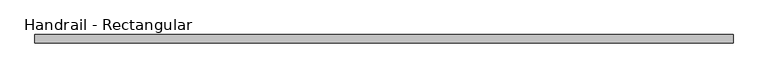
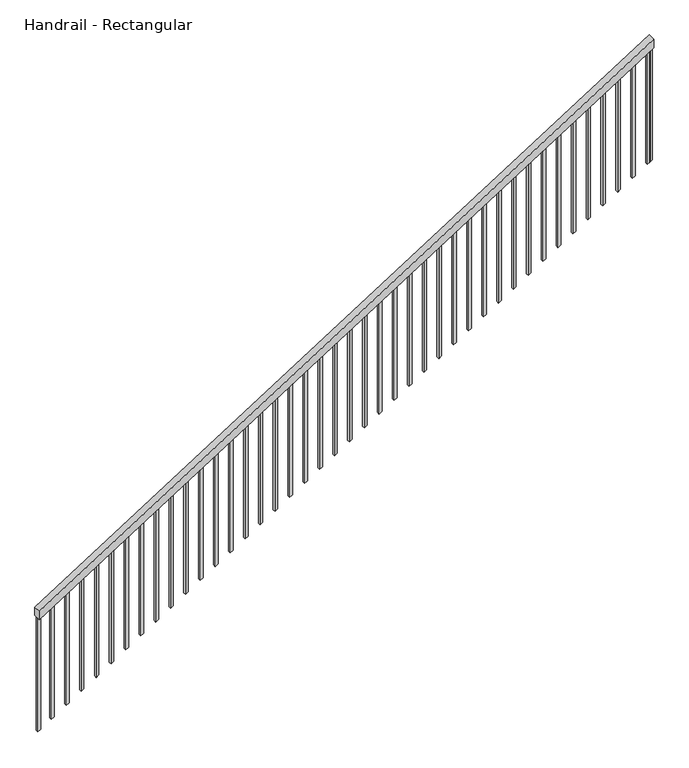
"""IFC4 building model written with IfcOpenShell, lengths in millimetres: railing geometry, Handrail - Rectangular."""

from ifc_helpers import new_model, si_unit, frame, origin, place, context, project, spatial, polyline, outline, extrude, source, transform, mapped, element, save


def handrail_rectangular_7836a871(model_context):
    return source(origin(), model_context, "Body", "SweptSolid", [
        extrude(outline(polyline([(914.4, 91186.1359071), (854.2661249, 91186.1359071), (3508.9758023, 95377.1359071), (3569.1096774, 95377.1359071), (914.4, 91186.1359071)])), frame((0.0, -25345.6485124, 0.0), z_axis=(0.0, 1.0, 0.0), x_axis=(0.0, 0.0, 1.0)), (0.0, 0.0, 1.0), 50.8),
        extrude(outline(polyline([(3486.8532217, 95342.2109071), (2670.3309214, 95342.2109071), (2682.3977835, 95361.2609071), (3498.9200838, 95361.2609071), (3486.8532217, 95342.2109071)])), frame((0.0, -25329.7735124, 0.0), z_axis=(0.0, 1.0, 0.0), x_axis=(0.0, 0.0, 1.0)), (0.0, 0.0, 1.0), 19.05),
        extrude(outline(polyline([(3422.4966234, 95240.6109071), (2605.9743231, 95240.6109071), (2618.0411853, 95259.6609071), (3434.5634856, 95259.6609071), (3422.4966234, 95240.6109071)])), frame((0.0, -25329.7735124, 0.0), z_axis=(0.0, 1.0, 0.0), x_axis=(0.0, 0.0, 1.0)), (0.0, 0.0, 1.0), 19.05),
        extrude(outline(polyline([(3358.1400252, 95139.0109071), (2541.6177249, 95139.0109071), (2553.6845871, 95158.0609071), (3370.2068874, 95158.0609071), (3358.1400252, 95139.0109071)])), frame((0.0, -25329.7735124, 0.0), z_axis=(0.0, 1.0, 0.0), x_axis=(0.0, 0.0, 1.0)), (0.0, 0.0, 1.0), 19.05),
        extrude(outline(polyline([(3293.783427, 95037.4109071), (2477.2611267, 95037.4109071), (2489.3279888, 95056.4609071), (3305.8502891, 95056.4609071), (3293.783427, 95037.4109071)])), frame((0.0, -25329.7735124, 0.0), z_axis=(0.0, 1.0, 0.0), x_axis=(0.0, 0.0, 1.0)), (0.0, 0.0, 1.0), 19.05),
        extrude(outline(polyline([(3229.4268287, 94935.8109071), (2412.9045284, 94935.8109071), (2424.9713906, 94954.8609071), (3241.4936909, 94954.8609071), (3229.4268287, 94935.8109071)])), frame((0.0, -25329.7735124, 0.0), z_axis=(0.0, 1.0, 0.0), x_axis=(0.0, 0.0, 1.0)), (0.0, 0.0, 1.0), 19.05),
        extrude(outline(polyline([(3165.0702305, 94834.2109071), (2348.5479302, 94834.2109071), (2360.6147923, 94853.2609071), (3177.1370926, 94853.2609071), (3165.0702305, 94834.2109071)])), frame((0.0, -25329.7735124, 0.0), z_axis=(0.0, 1.0, 0.0), x_axis=(0.0, 0.0, 1.0)), (0.0, 0.0, 1.0), 19.05),
        extrude(outline(polyline([(3100.7136322, 94732.6109071), (2284.1913319, 94732.6109071), (2296.2581941, 94751.6609071), (3112.7804944, 94751.6609071), (3100.7136322, 94732.6109071)])), frame((0.0, -25329.7735124, 0.0), z_axis=(0.0, 1.0, 0.0), x_axis=(0.0, 0.0, 1.0)), (0.0, 0.0, 1.0), 19.05),
        extrude(outline(polyline([(3036.357034, 94631.0109071), (2219.8347337, 94631.0109071), (2231.9015959, 94650.0609071), (3048.4238962, 94650.0609071), (3036.357034, 94631.0109071)])), frame((0.0, -25329.7735124, 0.0), z_axis=(0.0, 1.0, 0.0), x_axis=(0.0, 0.0, 1.0)), (0.0, 0.0, 1.0), 19.05),
        extrude(outline(polyline([(2972.0004358, 94529.4109071), (2155.4781355, 94529.4109071), (2167.5449976, 94548.4609071), (2984.0672979, 94548.4609071), (2972.0004358, 94529.4109071)])), frame((0.0, -25329.7735124, 0.0), z_axis=(0.0, 1.0, 0.0), x_axis=(0.0, 0.0, 1.0)), (0.0, 0.0, 1.0), 19.05),
        extrude(outline(polyline([(2907.6438375, 94427.8109071), (2091.1215372, 94427.8109071), (2103.1883994, 94446.8609071), (2919.7106997, 94446.8609071), (2907.6438375, 94427.8109071)])), frame((0.0, -25329.7735124, 0.0), z_axis=(0.0, 1.0, 0.0), x_axis=(0.0, 0.0, 1.0)), (0.0, 0.0, 1.0), 19.05),
        extrude(outline(polyline([(2843.2872393, 94326.2109071), (2026.764939, 94326.2109071), (2038.8318011, 94345.2609071), (2855.3541014, 94345.2609071), (2843.2872393, 94326.2109071)])), frame((0.0, -25329.7735124, 0.0), z_axis=(0.0, 1.0, 0.0), x_axis=(0.0, 0.0, 1.0)), (0.0, 0.0, 1.0), 19.05),
        extrude(outline(polyline([(2778.930641, 94224.6109071), (1962.4083407, 94224.6109071), (1974.4752029, 94243.6609071), (2790.9975032, 94243.6609071), (2778.930641, 94224.6109071)])), frame((0.0, -25329.7735124, 0.0), z_axis=(0.0, 1.0, 0.0), x_axis=(0.0, 0.0, 1.0)), (0.0, 0.0, 1.0), 19.05),
        extrude(outline(polyline([(2714.5740428, 94123.0109071), (1898.0517425, 94123.0109071), (1910.1186047, 94142.0609071), (2726.640905, 94142.0609071), (2714.5740428, 94123.0109071)])), frame((0.0, -25329.7735124, 0.0), z_axis=(0.0, 1.0, 0.0), x_axis=(0.0, 0.0, 1.0)), (0.0, 0.0, 1.0), 19.05),
        extrude(outline(polyline([(2650.2174446, 94021.4109071), (1833.6951443, 94021.4109071), (1845.7620064, 94040.4609071), (2662.2843067, 94040.4609071), (2650.2174446, 94021.4109071)])), frame((0.0, -25329.7735124, 0.0), z_axis=(0.0, 1.0, 0.0), x_axis=(0.0, 0.0, 1.0)), (0.0, 0.0, 1.0), 19.05),
        extrude(outline(polyline([(2585.8608463, 93919.8109071), (1769.338546, 93919.8109071), (1781.4054082, 93938.8609071), (2597.9277085, 93938.8609071), (2585.8608463, 93919.8109071)])), frame((0.0, -25329.7735124, 0.0), z_axis=(0.0, 1.0, 0.0), x_axis=(0.0, 0.0, 1.0)), (0.0, 0.0, 1.0), 19.05),
        extrude(outline(polyline([(2521.5042481, 93818.2109071), (1704.9819478, 93818.2109071), (1717.0488099, 93837.2609071), (2533.5711102, 93837.2609071), (2521.5042481, 93818.2109071)])), frame((0.0, -25329.7735124, 0.0), z_axis=(0.0, 1.0, 0.0), x_axis=(0.0, 0.0, 1.0)), (0.0, 0.0, 1.0), 19.05),
        extrude(outline(polyline([(2457.1476498, 93716.6109071), (1640.6253495, 93716.6109071), (1652.6922117, 93735.6609071), (2469.214512, 93735.6609071), (2457.1476498, 93716.6109071)])), frame((0.0, -25329.7735124, 0.0), z_axis=(0.0, 1.0, 0.0), x_axis=(0.0, 0.0, 1.0)), (0.0, 0.0, 1.0), 19.05),
        extrude(outline(polyline([(2392.7910516, 93615.0109071), (1576.2687513, 93615.0109071), (1588.3356135, 93634.0609071), (2404.8579138, 93634.0609071), (2392.7910516, 93615.0109071)])), frame((0.0, -25329.7735124, 0.0), z_axis=(0.0, 1.0, 0.0), x_axis=(0.0, 0.0, 1.0)), (0.0, 0.0, 1.0), 19.05),
        extrude(outline(polyline([(2328.4344533, 93513.4109071), (1511.912153, 93513.4109071), (1523.9790152, 93532.4609071), (2340.5013155, 93532.4609071), (2328.4344533, 93513.4109071)])), frame((0.0, -25329.7735124, 0.0), z_axis=(0.0, 1.0, 0.0), x_axis=(0.0, 0.0, 1.0)), (0.0, 0.0, 1.0), 19.05),
        extrude(outline(polyline([(2264.0778551, 93411.8109071), (1447.5555548, 93411.8109071), (1459.622417, 93430.8609071), (2276.1447173, 93430.8609071), (2264.0778551, 93411.8109071)])), frame((0.0, -25329.7735124, 0.0), z_axis=(0.0, 1.0, 0.0), x_axis=(0.0, 0.0, 1.0)), (0.0, 0.0, 1.0), 19.05),
        extrude(outline(polyline([(2199.7212569, 93310.2109071), (1383.1989566, 93310.2109071), (1395.2658187, 93329.2609071), (2211.788119, 93329.2609071), (2199.7212569, 93310.2109071)])), frame((0.0, -25329.7735124, 0.0), z_axis=(0.0, 1.0, 0.0), x_axis=(0.0, 0.0, 1.0)), (0.0, 0.0, 1.0), 19.05),
        extrude(outline(polyline([(2135.3646586, 93208.6109071), (1318.8423583, 93208.6109071), (1330.9092205, 93227.6609071), (2147.4315208, 93227.6609071), (2135.3646586, 93208.6109071)])), frame((0.0, -25329.7735124, 0.0), z_axis=(0.0, 1.0, 0.0), x_axis=(0.0, 0.0, 1.0)), (0.0, 0.0, 1.0), 19.05),
        extrude(outline(polyline([(2071.0080604, 93107.0109071), (1254.4857601, 93107.0109071), (1266.5526223, 93126.0609071), (2083.0749226, 93126.0609071), (2071.0080604, 93107.0109071)])), frame((0.0, -25329.7735124, 0.0), z_axis=(0.0, 1.0, 0.0), x_axis=(0.0, 0.0, 1.0)), (0.0, 0.0, 1.0), 19.05),
        extrude(outline(polyline([(2006.6514621, 93005.4109071), (1190.1291618, 93005.4109071), (1202.196024, 93024.4609071), (2018.7183243, 93024.4609071), (2006.6514621, 93005.4109071)])), frame((0.0, -25329.7735124, 0.0), z_axis=(0.0, 1.0, 0.0), x_axis=(0.0, 0.0, 1.0)), (0.0, 0.0, 1.0), 19.05),
        extrude(outline(polyline([(1942.2948639, 92903.8109071), (1125.7725636, 92903.8109071), (1137.8394258, 92922.8609071), (1954.3617261, 92922.8609071), (1942.2948639, 92903.8109071)])), frame((0.0, -25329.7735124, 0.0), z_axis=(0.0, 1.0, 0.0), x_axis=(0.0, 0.0, 1.0)), (0.0, 0.0, 1.0), 19.05),
        extrude(outline(polyline([(1877.9382657, 92802.2109071), (1061.4159654, 92802.2109071), (1073.4828275, 92821.2609071), (1890.0051278, 92821.2609071), (1877.9382657, 92802.2109071)])), frame((0.0, -25329.7735124, 0.0), z_axis=(0.0, 1.0, 0.0), x_axis=(0.0, 0.0, 1.0)), (0.0, 0.0, 1.0), 19.05),
        extrude(outline(polyline([(1813.5816674, 92700.6109071), (997.0593671, 92700.6109071), (1009.1262293, 92719.6609071), (1825.6485296, 92719.6609071), (1813.5816674, 92700.6109071)])), frame((0.0, -25329.7735124, 0.0), z_axis=(0.0, 1.0, 0.0), x_axis=(0.0, 0.0, 1.0)), (0.0, 0.0, 1.0), 19.05),
        extrude(outline(polyline([(1749.2250692, 92599.0109071), (932.7027689, 92599.0109071), (944.7696311, 92618.0609071), (1761.2919314, 92618.0609071), (1749.2250692, 92599.0109071)])), frame((0.0, -25329.7735124, 0.0), z_axis=(0.0, 1.0, 0.0), x_axis=(0.0, 0.0, 1.0)), (0.0, 0.0, 1.0), 19.05),
        extrude(outline(polyline([(1684.8684709, 92497.4109071), (868.3461706, 92497.4109071), (880.4130328, 92516.4609071), (1696.9353331, 92516.4609071), (1684.8684709, 92497.4109071)])), frame((0.0, -25329.7735124, 0.0), z_axis=(0.0, 1.0, 0.0), x_axis=(0.0, 0.0, 1.0)), (0.0, 0.0, 1.0), 19.05),
        extrude(outline(polyline([(1620.5118727, 92395.8109071), (803.9895724, 92395.8109071), (816.0564346, 92414.8609071), (1632.5787349, 92414.8609071), (1620.5118727, 92395.8109071)])), frame((0.0, -25329.7735124, 0.0), z_axis=(0.0, 1.0, 0.0), x_axis=(0.0, 0.0, 1.0)), (0.0, 0.0, 1.0), 19.05),
        extrude(outline(polyline([(1556.1552745, 92294.2109071), (739.6329742, 92294.2109071), (751.6998363, 92313.2609071), (1568.2221366, 92313.2609071), (1556.1552745, 92294.2109071)])), frame((0.0, -25329.7735124, 0.0), z_axis=(0.0, 1.0, 0.0), x_axis=(0.0, 0.0, 1.0)), (0.0, 0.0, 1.0), 19.05),
        extrude(outline(polyline([(1491.7986762, 92192.6109071), (675.2763759, 92192.6109071), (687.3432381, 92211.6609071), (1503.8655384, 92211.6609071), (1491.7986762, 92192.6109071)])), frame((0.0, -25329.7735124, 0.0), z_axis=(0.0, 1.0, 0.0), x_axis=(0.0, 0.0, 1.0)), (0.0, 0.0, 1.0), 19.05),
        extrude(outline(polyline([(1427.442078, 92091.0109071), (610.9197777, 92091.0109071), (622.9866399, 92110.0609071), (1439.5089402, 92110.0609071), (1427.442078, 92091.0109071)])), frame((0.0, -25329.7735124, 0.0), z_axis=(0.0, 1.0, 0.0), x_axis=(0.0, 0.0, 1.0)), (0.0, 0.0, 1.0), 19.05),
        extrude(outline(polyline([(1363.0854797, 91989.4109071), (546.5631794, 91989.4109071), (558.6300416, 92008.4609071), (1375.1523419, 92008.4609071), (1363.0854797, 91989.4109071)])), frame((0.0, -25329.7735124, 0.0), z_axis=(0.0, 1.0, 0.0), x_axis=(0.0, 0.0, 1.0)), (0.0, 0.0, 1.0), 19.05),
        extrude(outline(polyline([(1298.7288815, 91887.8109071), (482.2065812, 91887.8109071), (494.2734434, 91906.8609071), (1310.7957437, 91906.8609071), (1298.7288815, 91887.8109071)])), frame((0.0, -25329.7735124, 0.0), z_axis=(0.0, 1.0, 0.0), x_axis=(0.0, 0.0, 1.0)), (0.0, 0.0, 1.0), 19.05),
        extrude(outline(polyline([(1234.3722833, 91786.2109071), (417.849983, 91786.2109071), (429.9168451, 91805.2609071), (1246.4391454, 91805.2609071), (1234.3722833, 91786.2109071)])), frame((0.0, -25329.7735124, 0.0), z_axis=(0.0, 1.0, 0.0), x_axis=(0.0, 0.0, 1.0)), (0.0, 0.0, 1.0), 19.05),
        extrude(outline(polyline([(1170.015685, 91684.6109071), (353.4933847, 91684.6109071), (365.5602469, 91703.6609071), (1182.0825472, 91703.6609071), (1170.015685, 91684.6109071)])), frame((0.0, -25329.7735124, 0.0), z_axis=(0.0, 1.0, 0.0), x_axis=(0.0, 0.0, 1.0)), (0.0, 0.0, 1.0), 19.05),
        extrude(outline(polyline([(1105.6590868, 91583.0109071), (289.1367865, 91583.0109071), (301.2036486, 91602.0609071), (1117.7259489, 91602.0609071), (1105.6590868, 91583.0109071)])), frame((0.0, -25329.7735124, 0.0), z_axis=(0.0, 1.0, 0.0), x_axis=(0.0, 0.0, 1.0)), (0.0, 0.0, 1.0), 19.05),
        extrude(outline(polyline([(1041.3024885, 91481.4109071), (224.7801882, 91481.4109071), (236.8470504, 91500.4609071), (1053.3693507, 91500.4609071), (1041.3024885, 91481.4109071)])), frame((0.0, -25329.7735124, 0.0), z_axis=(0.0, 1.0, 0.0), x_axis=(0.0, 0.0, 1.0)), (0.0, 0.0, 1.0), 19.05),
        extrude(outline(polyline([(976.9458903, 91379.8109071), (160.42359, 91379.8109071), (172.4904522, 91398.8609071), (989.0127525, 91398.8609071), (976.9458903, 91379.8109071)])), frame((0.0, -25329.7735124, 0.0), z_axis=(0.0, 1.0, 0.0), x_axis=(0.0, 0.0, 1.0)), (0.0, 0.0, 1.0), 19.05),
        extrude(outline(polyline([(912.5892921, 91278.2109071), (96.0669918, 91278.2109071), (108.1338539, 91297.2609071), (924.6561542, 91297.2609071), (912.5892921, 91278.2109071)])), frame((0.0, -25329.7735124, 0.0), z_axis=(0.0, 1.0, 0.0), x_axis=(0.0, 0.0, 1.0)), (0.0, 0.0, 1.0), 19.05),
        extrude(outline(polyline([(3496.9089402, 95358.0859071), (2680.3866399, 95358.0859071), (2692.453502, 95377.1359071), (3508.9758023, 95377.1359071), (3496.9089402, 95358.0859071)])), frame((0.0, -25329.7735124, 0.0), z_axis=(0.0, 1.0, 0.0), x_axis=(0.0, 0.0, 1.0)), (0.0, 0.0, 1.0), 19.05),
        extrude(outline(polyline([(854.2661249, 91186.1359071), (37.7438246, 91186.1359071), (49.8106868, 91205.1859071), (866.3329871, 91205.1859071), (854.2661249, 91186.1359071)])), frame((0.0, -25329.7735124, 0.0), z_axis=(0.0, 1.0, 0.0), x_axis=(0.0, 0.0, 1.0)), (0.0, 0.0, 1.0), 19.05),
    ])


if __name__ == "__main__":
    model = new_model("IFC4")
    model_context = context("Model", 3, world=origin())
    ifc_project = project(units=[si_unit("LENGTHUNIT", "METRE", prefix="MILLI")], contexts=[model_context])
    site = spatial("IfcSite", under=ifc_project)
    building = spatial("IfcBuilding", under=site)
    placement = place(None, origin())
    handrail_rectangular_shape = handrail_rectangular_7836a871(model_context)
    element("IfcRailing", 1, ObjectType="Handrail - Rectangular", at=placement, inside=building, context=model_context, shape_type="MappedRepresentation", body=[
        mapped(handrail_rectangular_shape, transform((0.0, 0.0, 0.0), x_axis=(1.0, 0.0, 0.0), y_axis=(0.0, 1.0, 0.0), z_axis=(0.0, 0.0, 1.0))),
    ])
    save(model, "model.ifc")
